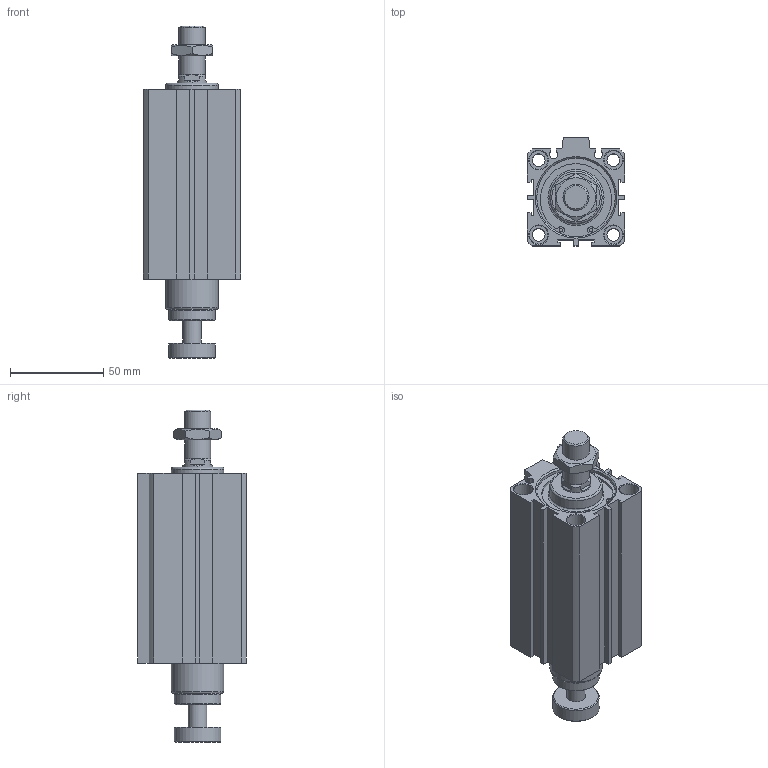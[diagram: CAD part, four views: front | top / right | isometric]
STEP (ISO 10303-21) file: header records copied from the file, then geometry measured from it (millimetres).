
FILE_DESCRIPTION((''),'2;1');
FILE_NAME('I:\3D電子目錄\氣缸\JDAR\JDAR-BS\JDAR40-BS\JDAR40x65-BS.stp','2007-05-05T14:14:19',('662F206'),(''),'Autodesk Inventor 11','Autodesk Inventor 11','');
FILE_SCHEMA(('AUTOMOTIVE_DESIGN { 1 0 10303 214 1 1 1 1 }'));
Length unit declared in the file: millimetre
Products named in the file (3): JDAR40-BS; R 形環 42
Assembly tree (3 placements, depth 2):
  JDAR40-BS
    JDAR40-BS
    R 形環 42  x2
Bounding box: 52 x 58 x 177.8 mm (x, y, z)
Volume: 264505.1 mm3; surface area: 54870.8 mm2
Topology: 3 solids, 3 shells, 179 faces, 418 edges, 271 vertices
Faces by surface type: plane 100, cylinder 50, cone 25, bspline 2, torus 2
Full cylindrical faces by diameter (mm): 1.9 x4, 2.2 x2, 6.8 x4, 10 x9, 14 x2, 16 x1, 25 x2, 28 x2, 42 x4, 44.5 x2
Entity records: 4585 total; most frequent: CARTESIAN_POINT 873, DIRECTION 770, ORIENTED_EDGE 654, EDGE_CURVE 327, AXIS2_PLACEMENT_3D 292, EDGE_LOOP 260, VERTEX_POINT 245, VECTOR 186
